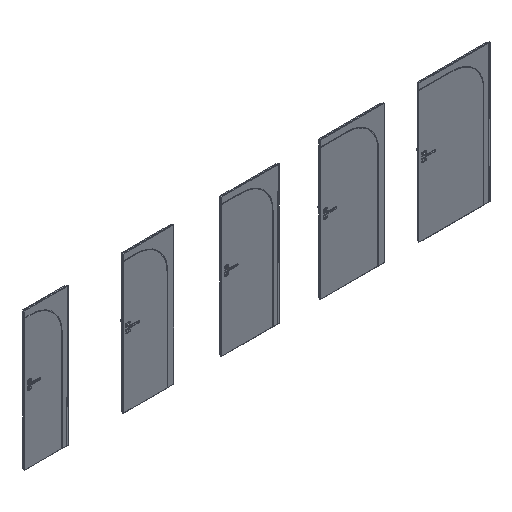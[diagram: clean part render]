
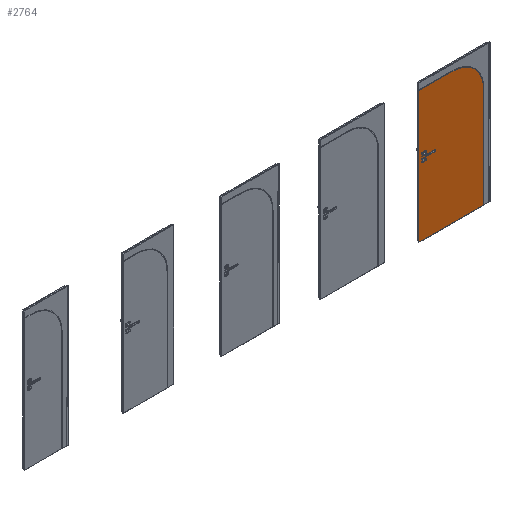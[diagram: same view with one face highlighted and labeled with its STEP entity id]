
A CAD part, isometric view. The second image highlights one B-rep face of the part: STEP entity #2764.
In plain terms, the highlighted planar face has unit normal (0, -1, 0).
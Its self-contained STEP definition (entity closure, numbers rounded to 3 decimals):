
#1706=FACE_OUTER_BOUND('',#5242,.T.);
#2764=ADVANCED_FACE('',(#1706),#3596,.F.);
#3596=PLANE('',#18366);
#4183=CIRCLE('',#18365,446.85);
#5242=EDGE_LOOP('',(#8109,#8110,#8111,#8112,#8113));
#8109=ORIENTED_EDGE('',*,*,#13485,.F.);
#8110=ORIENTED_EDGE('',*,*,#13486,.T.);
#8111=ORIENTED_EDGE('',*,*,#13487,.T.);
#8112=ORIENTED_EDGE('',*,*,#13488,.T.);
#8113=ORIENTED_EDGE('',*,*,#13489,.F.);
#11575=VERTEX_POINT('',#28613);
#11576=VERTEX_POINT('',#28614);
#11577=VERTEX_POINT('',#28616);
#11578=VERTEX_POINT('',#28618);
#11579=VERTEX_POINT('',#28620);
#13485=EDGE_CURVE('',#11575,#11576,#4183,.T.);
#13486=EDGE_CURVE('',#11575,#11577,#15507,.T.);
#13487=EDGE_CURVE('',#11577,#11578,#15508,.T.);
#13488=EDGE_CURVE('',#11578,#11579,#15509,.T.);
#13489=EDGE_CURVE('',#11576,#11579,#15510,.T.);
#15507=LINE('',#28615,#16857);
#15508=LINE('',#28617,#16858);
#15509=LINE('',#28619,#16859);
#15510=LINE('',#28621,#16860);
#16857=VECTOR('',#21578,1.);
#16858=VECTOR('',#21579,1.);
#16859=VECTOR('',#21580,1.);
#16860=VECTOR('',#21581,1.);
#18365=AXIS2_PLACEMENT_3D('',#28612,#21576,#21577);
#18366=AXIS2_PLACEMENT_3D('',#28622,#21582,#21583);
#21576=DIRECTION('',(0.,1.,0.));
#21577=DIRECTION('',(0.,0.,1.));
#21578=DIRECTION('',(-1.,0.,0.));
#21579=DIRECTION('',(0.,0.,-1.));
#21580=DIRECTION('',(1.,0.,0.));
#21581=DIRECTION('',(0.,0.,-1.));
#21582=DIRECTION('',(0.,1.,0.));
#21583=DIRECTION('',(-1.,0.,0.));
#28612=CARTESIAN_POINT('',(5978.,-39.3,1486.));
#28613=CARTESIAN_POINT('',(5978.,-39.3,1932.85));
#28614=CARTESIAN_POINT('',(6424.85,-39.3,1486.));
#28615=CARTESIAN_POINT('',(5978.,-39.3,1932.85));
#28616=CARTESIAN_POINT('',(5478.,-39.3,1932.85));
#28617=CARTESIAN_POINT('',(5478.,-39.3,2030.));
#28618=CARTESIAN_POINT('',(5478.,-39.3,2.));
#28619=CARTESIAN_POINT('',(5678.,-39.3,2.));
#28620=CARTESIAN_POINT('',(6424.85,-39.3,2.));
#28621=CARTESIAN_POINT('',(6424.85,-39.3,1486.));
#28622=CARTESIAN_POINT('',(5678.,-39.3,2030.));
